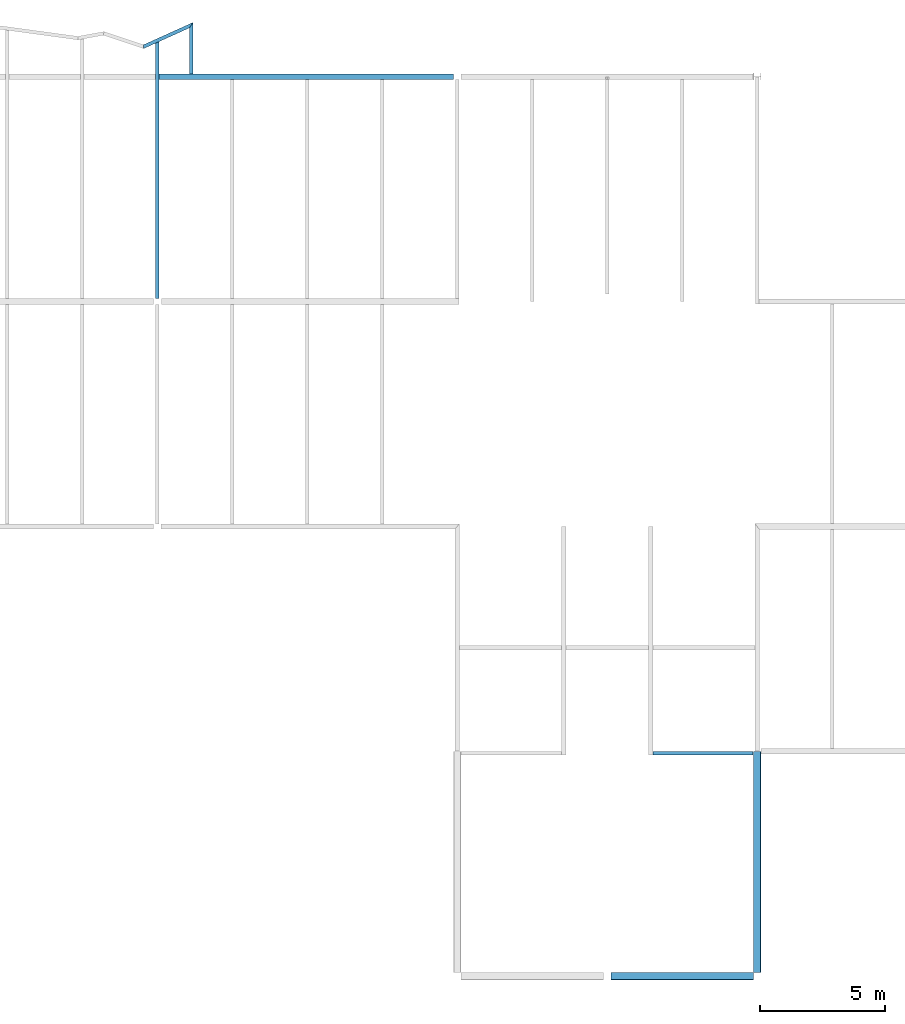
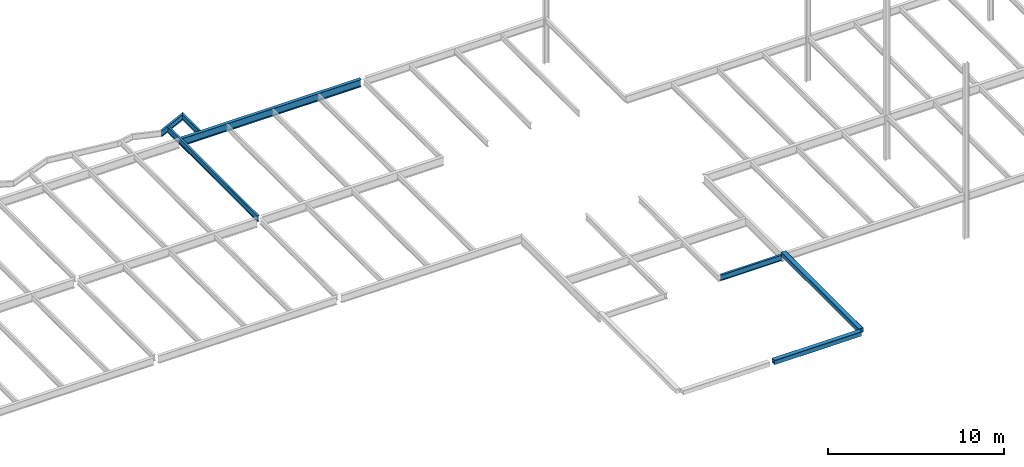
# One storey, part 14 of 26: 7 beams.
"""IFC2X3 building model written with IfcOpenShell, lengths in millimetres."""

from ifc_helpers import new_model, si_unit, origin, place, context, project, spatial, faceted_brep, material, element, save


model = new_model("IFC2X3")

# Units and contexts
context_of_model = context(None, 3, precision=1e-05, world=origin())
ifc_project = project(units=[si_unit("LENGTHUNIT", "METRE", prefix="MILLI")], contexts=[context_of_model])

# Building, storey
building = spatial("IfcBuilding", under=ifc_project, Name="Building", CompositionType="ELEMENT")
storey = spatial("IfcBuildingStorey", under=building, Name="FL4-FRM", CompositionType="ELEMENT")

# Beams
ifc_material_1 = material(Name="A992")
beam_1_placement = place(None, origin())
element("IfcBeam", 1, at=beam_1_placement, inside=storey, material=ifc_material_1, Name="Column357", context=context_of_model, shape_type="Brep", body=[
    faceted_brep([(-11930.0, 35895.5, 12845.0), (-11930.0, 36104.5, 12845.0), (-154.0, 36104.5, 12845.0), (-154.0, 35895.5, 12845.0), (-11930.0, 36104.5, 12858.3), (-154.0, 36104.5, 12858.3), (-11930.0, 36017.4, 12858.3), (-154.0, 36017.4, 12858.3), (-11930.0, 36014.2, 12858.7), (-154.0, 36014.2, 12858.7), (-11930.0, 36011.1, 12860.0), (-154.0, 36011.1, 12860.0), (-11930.0, 36008.5, 12862.0), (-154.0, 36008.5, 12862.0), (-11930.0, 36006.5, 12864.7), (-154.0, 36006.5, 12864.7), (-11930.0, 36005.2, 12867.7), (-154.0, 36005.2, 12867.7), (-11930.0, 36004.7, 12871.0), (-154.0, 36004.8, 12871.0), (-11930.0, 36004.7, 13347.0), (-154.0, 36004.8, 13347.0), (-11930.0, 36005.2, 13350.3), (-154.0, 36005.2, 13350.3), (-11930.0, 36006.5, 13353.3), (-154.0, 36006.5, 13353.3), (-11930.0, 36008.5, 13356.0), (-154.0, 36008.5, 13356.0), (-11930.0, 36011.1, 13358.0), (-154.0, 36011.1, 13358.0), (-11930.0, 36014.2, 13359.3), (-154.0, 36014.2, 13359.3), (-11930.0, 36017.4, 13359.7), (-154.0, 36017.4, 13359.7), (-11930.0, 36104.5, 13359.7), (-154.0, 36104.5, 13359.7), (-11930.0, 36104.5, 13373.0), (-154.0, 36104.5, 13373.0), (-11930.0, 35895.5, 13373.0), (-154.0, 35895.5, 13373.0), (-11930.0, 35895.5, 13359.7), (-154.0, 35895.5, 13359.7), (-11930.0, 35982.6, 13359.7), (-154.0, 35982.6, 13359.7), (-11930.0, 35985.8, 13359.3), (-154.0, 35985.8, 13359.3), (-11930.0, 35988.9, 13358.0), (-154.0, 35988.9, 13358.0), (-11930.0, 35991.5, 13356.0), (-154.0, 35991.5, 13356.0), (-11930.0, 35993.5, 13353.3), (-154.0, 35993.5, 13353.3), (-11930.0, 35994.8, 13350.3), (-154.0, 35994.8, 13350.3), (-11930.0, 35995.2, 13347.0), (-154.0, 35995.3, 13347.0), (-11930.0, 35995.2, 12871.0), (-154.0, 35995.3, 12871.0), (-11930.0, 35994.8, 12867.7), (-154.0, 35994.8, 12867.7), (-11930.0, 35993.5, 12864.7), (-154.0, 35993.5, 12864.7), (-11930.0, 35991.5, 12862.0), (-154.0, 35991.5, 12862.0), (-11930.0, 35988.9, 12860.0), (-154.0, 35988.9, 12860.0), (-11930.0, 35985.8, 12858.7), (-154.0, 35985.8, 12858.7), (-11930.0, 35982.6, 12858.3), (-154.0, 35982.6, 12858.3), (-11930.0, 35895.5, 12858.3), (-154.0, 35895.5, 12858.3)], [[[0, 1, 2, 3]], [[1, 4, 5, 2]], [[4, 6, 7, 5]], [[6, 8, 9, 7]], [[8, 10, 11, 9]], [[10, 12, 13, 11]], [[12, 14, 15, 13]], [[14, 16, 17, 15]], [[16, 18, 19, 17]], [[18, 20, 21, 19]], [[20, 22, 23, 21]], [[22, 24, 25, 23]], [[24, 26, 27, 25]], [[26, 28, 29, 27]], [[28, 30, 31, 29]], [[30, 32, 33, 31]], [[32, 34, 35, 33]], [[34, 36, 37, 35]], [[36, 38, 39, 37]], [[38, 40, 41, 39]], [[40, 42, 43, 41]], [[42, 44, 45, 43]], [[44, 46, 47, 45]], [[46, 48, 49, 47]], [[48, 50, 51, 49]], [[50, 52, 53, 51]], [[52, 54, 55, 53]], [[54, 56, 57, 55]], [[56, 58, 59, 57]], [[58, 60, 61, 59]], [[60, 62, 63, 61]], [[62, 64, 65, 63]], [[64, 66, 67, 65]], [[66, 68, 69, 67]], [[68, 70, 71, 69]], [[70, 0, 3, 71]], [[0, 70, 68, 66, 64, 62, 60, 58, 56, 54, 52, 50, 48, 46, 44, 42, 40, 38, 36, 34, 32, 30, 28, 26, 24, 22, 20, 18, 16, 14, 12, 10, 8, 6, 4, 1]], [[3, 2, 5, 7, 9, 11, 13, 15, 17, 19, 21, 23, 25, 27, 29, 31, 33, 35, 37, 39, 41, 43, 45, 47, 49, 51, 53, 55, 57, 59, 61, 63, 65, 67, 69, 71]]]),
])
ifc_material_2 = material(Name="A992")
beam_2_placement = place(None, origin())
element("IfcBeam", 2, at=beam_2_placement, inside=storey, material=ifc_material_2, Name="B979", context=context_of_model, shape_type="Brep", body=[
    faceted_brep([(-10720.0, 37949.8, 12974.0), (-10580.0, 38166.6, 12974.0), (-10580.0, 36104.5, 12974.0), (-10720.0, 36104.5, 12974.0), (-10580.0, 38166.6, 12982.8), (-10580.0, 36104.5, 12982.8), (-10636.6, 38079.0, 12982.8), (-10636.6, 36104.5, 12982.8), (-10638.0, 38076.8, 12982.9), (-10638.1, 36104.5, 12982.9), (-10639.5, 38074.6, 12983.2), (-10639.5, 36104.5, 12983.2), (-10640.8, 38072.4, 12983.7), (-10640.8, 36104.5, 12983.7), (-10642.1, 38070.5, 12984.4), (-10642.1, 36104.5, 12984.4), (-10643.2, 38068.7, 12985.2), (-10643.3, 36104.5, 12985.3), (-10644.3, 38067.1, 12986.3), (-10644.3, 36104.5, 12986.3), (-10645.1, 38065.8, 12987.4), (-10645.2, 36104.5, 12987.5), (-10645.9, 38064.6, 12988.7), (-10645.9, 36104.5, 12988.8), (-10646.3, 38063.9, 12990.1), (-10646.4, 36104.5, 12990.1), (-10646.6, 38063.4, 12991.5), (-10646.7, 36104.5, 12991.5), (-10646.8, 38063.2, 12993.0), (-10646.8, 36104.5, 12993.0), (-10646.8, 38063.2, 13354.0), (-10646.8, 36104.5, 13354.0), (-10646.6, 38063.4, 13355.5), (-10646.7, 36104.5, 13355.5), (-10646.3, 38063.9, 13356.9), (-10646.4, 36104.5, 13356.9), (-10645.9, 38064.6, 13358.3), (-10645.9, 36104.5, 13358.2), (-10645.1, 38065.8, 13359.6), (-10645.2, 36104.5, 13359.5), (-10644.3, 38067.1, 13360.7), (-10644.3, 36104.5, 13360.7), (-10643.2, 38068.7, 13361.8), (-10643.3, 36104.5, 13361.7), (-10642.1, 38070.5, 13362.6), (-10642.1, 36104.5, 13362.6), (-10640.8, 38072.4, 13363.3), (-10640.8, 36104.5, 13363.3), (-10639.5, 38074.6, 13363.8), (-10639.5, 36104.5, 13363.8), (-10638.0, 38076.8, 13364.1), (-10638.1, 36104.5, 13364.1), (-10636.6, 38079.0, 13364.2), (-10636.6, 36104.5, 13364.2), (-10580.0, 38166.6, 13364.2), (-10580.0, 36104.5, 13364.2), (-10580.0, 38166.6, 13373.0), (-10580.0, 36104.5, 13373.0), (-10720.0, 37949.8, 13373.0), (-10720.0, 36104.5, 13373.0), (-10720.0, 37949.8, 13364.2), (-10720.0, 36104.5, 13364.2), (-10663.4, 38037.5, 13364.2), (-10663.4, 36104.5, 13364.2), (-10662.0, 38039.7, 13364.1), (-10661.9, 36104.5, 13364.1), (-10660.5, 38041.9, 13363.8), (-10660.5, 36104.5, 13363.8), (-10659.2, 38044.0, 13363.3), (-10659.2, 36104.5, 13363.3), (-10657.9, 38045.9, 13362.6), (-10657.9, 36104.5, 13362.6), (-10656.8, 38047.8, 13361.8), (-10656.7, 36104.5, 13361.7), (-10655.7, 38049.3, 13360.7), (-10655.7, 36104.5, 13360.7), (-10654.9, 38050.7, 13359.6), (-10654.8, 36104.5, 13359.5), (-10654.1, 38051.8, 13358.3), (-10654.1, 36104.5, 13358.2), (-10653.7, 38052.5, 13356.9), (-10653.6, 36104.5, 13356.9), (-10653.4, 38053.0, 13355.5), (-10653.3, 36104.5, 13355.5), (-10653.2, 38053.3, 13354.0), (-10653.2, 36104.5, 13354.0), (-10653.2, 38053.3, 12993.0), (-10653.2, 36104.5, 12993.0), (-10653.4, 38053.0, 12991.5), (-10653.3, 36104.5, 12991.5), (-10653.7, 38052.5, 12990.1), (-10653.6, 36104.5, 12990.1), (-10654.1, 38051.8, 12988.7), (-10654.1, 36104.5, 12988.8), (-10654.9, 38050.7, 12987.4), (-10654.8, 36104.5, 12987.5), (-10655.7, 38049.3, 12986.3), (-10655.7, 36104.5, 12986.3), (-10656.8, 38047.8, 12985.2), (-10656.7, 36104.5, 12985.3), (-10657.9, 38045.9, 12984.4), (-10657.9, 36104.5, 12984.4), (-10659.2, 38044.0, 12983.7), (-10659.2, 36104.5, 12983.7), (-10660.5, 38041.9, 12983.2), (-10660.5, 36104.5, 12983.2), (-10662.0, 38039.7, 12982.9), (-10661.9, 36104.5, 12982.9), (-10663.4, 38037.5, 12982.8), (-10663.4, 36104.5, 12982.8), (-10720.0, 37949.8, 12982.8), (-10720.0, 36104.5, 12982.8)], [[[0, 1, 2, 3]], [[1, 4, 5, 2]], [[4, 6, 7, 5]], [[6, 8, 9, 7]], [[8, 10, 11, 9]], [[10, 12, 13, 11]], [[12, 14, 15, 13]], [[14, 16, 17, 15]], [[16, 18, 19, 17]], [[18, 20, 21, 19]], [[20, 22, 23, 21]], [[22, 24, 25, 23]], [[24, 26, 27, 25]], [[26, 28, 29, 27]], [[28, 30, 31, 29]], [[30, 32, 33, 31]], [[32, 34, 35, 33]], [[34, 36, 37, 35]], [[36, 38, 39, 37]], [[38, 40, 41, 39]], [[40, 42, 43, 41]], [[42, 44, 45, 43]], [[44, 46, 47, 45]], [[46, 48, 49, 47]], [[48, 50, 51, 49]], [[50, 52, 53, 51]], [[52, 54, 55, 53]], [[54, 56, 57, 55]], [[56, 58, 59, 57]], [[58, 60, 61, 59]], [[60, 62, 63, 61]], [[62, 64, 65, 63]], [[64, 66, 67, 65]], [[66, 68, 69, 67]], [[68, 70, 71, 69]], [[70, 72, 73, 71]], [[72, 74, 75, 73]], [[74, 76, 77, 75]], [[76, 78, 79, 77]], [[78, 80, 81, 79]], [[80, 82, 83, 81]], [[82, 84, 85, 83]], [[84, 86, 87, 85]], [[86, 88, 89, 87]], [[88, 90, 91, 89]], [[90, 92, 93, 91]], [[92, 94, 95, 93]], [[94, 96, 97, 95]], [[96, 98, 99, 97]], [[98, 100, 101, 99]], [[100, 102, 103, 101]], [[102, 104, 105, 103]], [[104, 106, 107, 105]], [[106, 108, 109, 107]], [[108, 110, 111, 109]], [[110, 0, 3, 111]], [[0, 110, 108, 106, 104, 102, 100, 98, 96, 94, 92, 90, 88, 86, 84, 82, 80, 78, 76, 74, 72, 70, 68, 66, 64, 62, 60, 58, 56, 54, 52, 50, 48, 46, 44, 42, 40, 38, 36, 34, 32, 30, 28, 26, 24, 22, 20, 18, 16, 14, 12, 10, 8, 6, 4, 1]], [[3, 2, 5, 7, 9, 11, 13, 15, 17, 19, 21, 23, 25, 27, 29, 31, 33, 35, 37, 39, 41, 43, 45, 47, 49, 51, 53, 55, 57, 59, 61, 63, 65, 67, 69, 71, 73, 75, 77, 79, 81, 83, 85, 87, 89, 91, 93, 95, 97, 99, 101, 103, 105, 107, 109, 111]]]),
])
ifc_material_3 = material(Name="A992")
beam_3_placement = place(None, origin())
element("IfcBeam", 3, at=beam_3_placement, inside=storey, material=ifc_material_3, Name="B980", context=context_of_model, shape_type="Brep", body=[
    faceted_brep([(-12548.9, 37124.0, 12974.0), (-12556.6, 37274.1, 12974.0), (-10580.0, 38166.6, 12974.0), (-10720.0, 37949.8, 12974.0), (-12556.6, 37274.1, 12982.8), (-10580.0, 38166.6, 12982.8), (-12553.5, 37213.4, 12982.8), (-10636.6, 38079.0, 12982.8), (-12553.4, 37211.7, 12982.9), (-10638.2, 38076.5, 12982.9), (-12553.3, 37210.1, 12983.3), (-10639.7, 38074.1, 12983.3), (-12553.2, 37208.5, 12983.9), (-10641.2, 38071.9, 12983.9), (-12553.1, 37207.0, 12984.7), (-10642.5, 38069.8, 12984.7), (-12553.1, 37205.7, 12985.8), (-10643.8, 38067.8, 12985.8), (-12553.0, 37204.6, 12987.0), (-10644.8, 38066.3, 12986.9), (-12553.0, 37203.7, 12988.4), (-10645.7, 38064.9, 12988.3), (-12552.9, 37203.0, 12989.8), (-10646.3, 38064.0, 12989.8), (-12552.9, 37202.7, 12991.4), (-10646.6, 38063.5, 12991.4), (-12552.9, 37202.5, 12993.0), (-10646.8, 38063.2, 12993.0), (-12552.9, 37202.5, 13354.0), (-10646.8, 38063.2, 13354.0), (-12552.9, 37202.7, 13355.6), (-10646.6, 38063.5, 13355.6), (-12552.9, 37203.0, 13357.2), (-10646.3, 38064.0, 13357.2), (-12553.0, 37203.7, 13358.6), (-10645.7, 38064.9, 13358.7), (-12553.0, 37204.6, 13360.0), (-10644.8, 38066.3, 13360.1), (-12553.1, 37205.7, 13361.2), (-10643.8, 38067.8, 13361.2), (-12553.1, 37207.0, 13362.3), (-10642.5, 38069.8, 13362.3), (-12553.2, 37208.5, 13363.1), (-10641.2, 38071.9, 13363.1), (-12553.3, 37210.1, 13363.7), (-10639.7, 38074.1, 13363.7), (-12553.4, 37211.7, 13364.1), (-10638.2, 38076.5, 13364.1), (-12553.5, 37213.4, 13364.2), (-10636.6, 38079.0, 13364.2), (-12556.6, 37274.1, 13364.2), (-10580.0, 38166.6, 13364.2), (-12556.6, 37274.1, 13373.0), (-10580.0, 38166.6, 13373.0), (-12548.9, 37124.0, 13373.0), (-10720.0, 37949.8, 13373.0), (-12548.9, 37124.0, 13364.2), (-10720.0, 37949.8, 13364.2), (-12552.0, 37184.7, 13364.2), (-10663.4, 38037.5, 13364.2), (-12552.1, 37186.4, 13364.1), (-10661.8, 38039.9, 13364.1), (-12552.2, 37188.1, 13363.7), (-10660.3, 38042.3, 13363.7), (-12552.2, 37189.7, 13363.1), (-10658.8, 38044.6, 13363.1), (-12552.3, 37191.1, 13362.3), (-10657.5, 38046.7, 13362.3), (-12552.4, 37192.4, 13361.2), (-10656.2, 38048.6, 13361.2), (-12552.4, 37193.5, 13360.0), (-10655.2, 38050.2, 13360.1), (-12552.5, 37194.5, 13358.6), (-10654.3, 38051.5, 13358.7), (-12552.5, 37195.1, 13357.2), (-10653.7, 38052.4, 13357.2), (-12552.5, 37195.5, 13355.6), (-10653.4, 38053.0, 13355.6), (-12552.5, 37195.6, 13354.0), (-10653.2, 38053.3, 13354.0), (-12552.5, 37195.6, 12993.0), (-10653.2, 38053.3, 12993.0), (-12552.5, 37195.5, 12991.4), (-10653.4, 38053.0, 12991.4), (-12552.5, 37195.1, 12989.8), (-10653.7, 38052.4, 12989.8), (-12552.5, 37194.5, 12988.4), (-10654.3, 38051.5, 12988.3), (-12552.4, 37193.5, 12987.0), (-10655.2, 38050.2, 12986.9), (-12552.4, 37192.4, 12985.8), (-10656.2, 38048.6, 12985.8), (-12552.3, 37191.1, 12984.7), (-10657.5, 38046.7, 12984.7), (-12552.2, 37189.7, 12983.9), (-10658.8, 38044.6, 12983.9), (-12552.2, 37188.1, 12983.3), (-10660.3, 38042.3, 12983.3), (-12552.1, 37186.4, 12982.9), (-10661.8, 38039.9, 12982.9), (-12552.0, 37184.7, 12982.8), (-10663.4, 38037.5, 12982.8), (-12548.9, 37124.0, 12982.8), (-10720.0, 37949.8, 12982.8)], [[[0, 1, 2, 3]], [[1, 4, 5, 2]], [[4, 6, 7, 5]], [[6, 8, 9, 7]], [[8, 10, 11, 9]], [[10, 12, 13, 11]], [[12, 14, 15, 13]], [[14, 16, 17, 15]], [[16, 18, 19, 17]], [[18, 20, 21, 19]], [[20, 22, 23, 21]], [[22, 24, 25, 23]], [[24, 26, 27, 25]], [[26, 28, 29, 27]], [[28, 30, 31, 29]], [[30, 32, 33, 31]], [[32, 34, 35, 33]], [[34, 36, 37, 35]], [[36, 38, 39, 37]], [[38, 40, 41, 39]], [[40, 42, 43, 41]], [[42, 44, 45, 43]], [[44, 46, 47, 45]], [[46, 48, 49, 47]], [[48, 50, 51, 49]], [[50, 52, 53, 51]], [[52, 54, 55, 53]], [[54, 56, 57, 55]], [[56, 58, 59, 57]], [[58, 60, 61, 59]], [[60, 62, 63, 61]], [[62, 64, 65, 63]], [[64, 66, 67, 65]], [[66, 68, 69, 67]], [[68, 70, 71, 69]], [[70, 72, 73, 71]], [[72, 74, 75, 73]], [[74, 76, 77, 75]], [[76, 78, 79, 77]], [[78, 80, 81, 79]], [[80, 82, 83, 81]], [[82, 84, 85, 83]], [[84, 86, 87, 85]], [[86, 88, 89, 87]], [[88, 90, 91, 89]], [[90, 92, 93, 91]], [[92, 94, 95, 93]], [[94, 96, 97, 95]], [[96, 98, 99, 97]], [[98, 100, 101, 99]], [[100, 102, 103, 101]], [[102, 0, 3, 103]], [[0, 102, 100, 98, 96, 94, 92, 90, 88, 86, 84, 82, 80, 78, 76, 74, 72, 70, 68, 66, 64, 62, 60, 58, 56, 54, 52, 50, 48, 46, 44, 42, 40, 38, 36, 34, 32, 30, 28, 26, 24, 22, 20, 18, 16, 14, 12, 10, 8, 6, 4, 1]], [[3, 2, 5, 7, 9, 11, 13, 15, 17, 19, 21, 23, 25, 27, 29, 31, 33, 35, 37, 39, 41, 43, 45, 47, 49, 51, 53, 55, 57, 59, 61, 63, 65, 67, 69, 71, 73, 75, 77, 79, 81, 83, 85, 87, 89, 91, 93, 95, 97, 99, 101, 103]]]),
])
ifc_material_4 = material(Name="A992")
beam_4_placement = place(None, origin())
element("IfcBeam", 4, at=beam_4_placement, inside=storey, material=ifc_material_4, Name="B981", context=context_of_model, shape_type="Brep", body=[
    faceted_brep([(-12070.0, 37340.2, 12974.0), (-11930.0, 37403.5, 12974.0), (-11930.0, 27114.5, 12974.0), (-12070.0, 27114.5, 12974.0), (-11930.0, 37403.5, 12982.8), (-11930.0, 27114.5, 12982.8), (-11986.6, 37377.9, 12982.8), (-11986.6, 27114.5, 12982.8), (-11988.0, 37377.2, 12982.9), (-11988.1, 27114.5, 12982.9), (-11989.5, 37376.6, 12983.2), (-11989.5, 27114.5, 12983.2), (-11990.8, 37376.0, 12983.7), (-11990.8, 27114.5, 12983.7), (-11992.1, 37375.4, 12984.4), (-11992.1, 27114.5, 12984.4), (-11993.3, 37374.9, 12985.3), (-11993.3, 27114.5, 12985.3), (-11994.3, 37374.4, 12986.3), (-11994.3, 27114.5, 12986.3), (-11995.2, 37374.0, 12987.5), (-11995.2, 27114.5, 12987.5), (-11995.9, 37373.7, 12988.8), (-11995.9, 27114.5, 12988.8), (-11996.4, 37373.5, 12990.1), (-11996.4, 27114.5, 12990.1), (-11996.7, 37373.3, 12991.5), (-11996.7, 27114.5, 12991.5), (-11996.8, 37373.3, 12993.0), (-11996.8, 27114.5, 12993.0), (-11996.8, 37373.3, 13354.0), (-11996.8, 27114.5, 13354.0), (-11996.7, 37373.3, 13355.5), (-11996.7, 27114.5, 13355.5), (-11996.4, 37373.5, 13356.9), (-11996.4, 27114.5, 13356.9), (-11995.9, 37373.7, 13358.2), (-11995.9, 27114.5, 13358.2), (-11995.2, 37374.0, 13359.5), (-11995.2, 27114.5, 13359.5), (-11994.3, 37374.4, 13360.7), (-11994.3, 27114.5, 13360.7), (-11993.3, 37374.9, 13361.7), (-11993.3, 27114.5, 13361.7), (-11992.1, 37375.4, 13362.6), (-11992.1, 27114.5, 13362.6), (-11990.8, 37376.0, 13363.3), (-11990.8, 27114.5, 13363.3), (-11989.5, 37376.6, 13363.8), (-11989.5, 27114.5, 13363.8), (-11988.0, 37377.2, 13364.1), (-11988.1, 27114.5, 13364.1), (-11986.6, 37377.9, 13364.2), (-11986.6, 27114.5, 13364.2), (-11930.0, 37403.5, 13364.2), (-11930.0, 27114.5, 13364.2), (-11930.0, 37403.5, 13373.0), (-11930.0, 27114.5, 13373.0), (-12070.0, 37340.2, 13373.0), (-12070.0, 27114.5, 13373.0), (-12070.0, 37340.2, 13364.2), (-12070.0, 27114.5, 13364.2), (-12013.4, 37365.8, 13364.2), (-12013.4, 27114.5, 13364.2), (-12012.0, 37366.4, 13364.1), (-12011.9, 27114.5, 13364.1), (-12010.5, 37367.1, 13363.8), (-12010.5, 27114.5, 13363.8), (-12009.2, 37367.7, 13363.3), (-12009.2, 27114.5, 13363.3), (-12007.9, 37368.3, 13362.6), (-12007.9, 27114.5, 13362.6), (-12006.7, 37368.8, 13361.7), (-12006.7, 27114.5, 13361.7), (-12005.7, 37369.3, 13360.7), (-12005.7, 27114.5, 13360.7), (-12004.8, 37369.7, 13359.5), (-12004.8, 27114.5, 13359.5), (-12004.1, 37370.0, 13358.2), (-12004.1, 27114.5, 13358.2), (-12003.6, 37370.2, 13356.9), (-12003.6, 27114.5, 13356.9), (-12003.3, 37370.3, 13355.5), (-12003.3, 27114.5, 13355.5), (-12003.2, 37370.4, 13354.0), (-12003.2, 27114.5, 13354.0), (-12003.2, 37370.4, 12993.0), (-12003.2, 27114.5, 12993.0), (-12003.3, 37370.3, 12991.5), (-12003.3, 27114.5, 12991.5), (-12003.6, 37370.2, 12990.1), (-12003.6, 27114.5, 12990.1), (-12004.1, 37370.0, 12988.8), (-12004.1, 27114.5, 12988.8), (-12004.8, 37369.7, 12987.5), (-12004.8, 27114.5, 12987.5), (-12005.7, 37369.3, 12986.3), (-12005.7, 27114.5, 12986.3), (-12006.7, 37368.8, 12985.3), (-12006.7, 27114.5, 12985.3), (-12007.9, 37368.3, 12984.4), (-12007.9, 27114.5, 12984.4), (-12009.2, 37367.7, 12983.7), (-12009.2, 27114.5, 12983.7), (-12010.5, 37367.1, 12983.2), (-12010.5, 27114.5, 12983.2), (-12012.0, 37366.4, 12982.9), (-12011.9, 27114.5, 12982.9), (-12013.4, 37365.8, 12982.8), (-12013.4, 27114.5, 12982.8), (-12070.0, 37340.2, 12982.8), (-12070.0, 27114.5, 12982.8)], [[[0, 1, 2, 3]], [[1, 4, 5, 2]], [[4, 6, 7, 5]], [[6, 8, 9, 7]], [[8, 10, 11, 9]], [[10, 12, 13, 11]], [[12, 14, 15, 13]], [[14, 16, 17, 15]], [[16, 18, 19, 17]], [[18, 20, 21, 19]], [[20, 22, 23, 21]], [[22, 24, 25, 23]], [[24, 26, 27, 25]], [[26, 28, 29, 27]], [[28, 30, 31, 29]], [[30, 32, 33, 31]], [[32, 34, 35, 33]], [[34, 36, 37, 35]], [[36, 38, 39, 37]], [[38, 40, 41, 39]], [[40, 42, 43, 41]], [[42, 44, 45, 43]], [[44, 46, 47, 45]], [[46, 48, 49, 47]], [[48, 50, 51, 49]], [[50, 52, 53, 51]], [[52, 54, 55, 53]], [[54, 56, 57, 55]], [[56, 58, 59, 57]], [[58, 60, 61, 59]], [[60, 62, 63, 61]], [[62, 64, 65, 63]], [[64, 66, 67, 65]], [[66, 68, 69, 67]], [[68, 70, 71, 69]], [[70, 72, 73, 71]], [[72, 74, 75, 73]], [[74, 76, 77, 75]], [[76, 78, 79, 77]], [[78, 80, 81, 79]], [[80, 82, 83, 81]], [[82, 84, 85, 83]], [[84, 86, 87, 85]], [[86, 88, 89, 87]], [[88, 90, 91, 89]], [[90, 92, 93, 91]], [[92, 94, 95, 93]], [[94, 96, 97, 95]], [[96, 98, 99, 97]], [[98, 100, 101, 99]], [[100, 102, 103, 101]], [[102, 104, 105, 103]], [[104, 106, 107, 105]], [[106, 108, 109, 107]], [[108, 110, 111, 109]], [[110, 0, 3, 111]], [[0, 110, 108, 106, 104, 102, 100, 98, 96, 94, 92, 90, 88, 86, 84, 82, 80, 78, 76, 74, 72, 70, 68, 66, 64, 62, 60, 58, 56, 54, 52, 50, 48, 46, 44, 42, 40, 38, 36, 34, 32, 30, 28, 26, 24, 22, 20, 18, 16, 14, 12, 10, 8, 6, 4, 1]], [[3, 2, 5, 7, 9, 11, 13, 15, 17, 19, 21, 23, 25, 27, 29, 31, 33, 35, 37, 39, 41, 43, 45, 47, 49, 51, 53, 55, 57, 59, 61, 63, 65, 67, 69, 71, 73, 75, 77, 79, 81, 83, 85, 87, 89, 91, 93, 95, 97, 99, 101, 103, 105, 107, 109, 111]]]),
])
ifc_material_5 = material(Name="A500 grade B")
beam_5_placement = place(None, origin())
element("IfcBeam", 5, at=beam_5_placement, inside=storey, material=ifc_material_5, Name="B1229", context=context_of_model, shape_type="Brep", body=[
    faceted_brep([(6152.5, -1.94289e-12, 13195.0), (6152.5, 133.5, 13195.0), (11847.5, 133.5, 13195.0), (11847.5, -1.94289e-12, 13195.0), (6152.5, 138.418, 13195.6), (11847.5, 138.418, 13195.6), (6152.5, 143.0, 13197.5), (11847.5, 143.0, 13197.5), (6152.5, 146.935, 13200.6), (11847.5, 146.935, 13200.6), (6152.5, 149.954, 13204.5), (11847.5, 149.954, 13204.5), (6152.5, 151.853, 13209.1), (11847.5, 151.853, 13209.1), (6152.5, 152.5, 13214.0), (11847.5, 152.5, 13214.0), (6152.5, 152.5, 13481.0), (11847.5, 152.5, 13481.0), (6152.5, 151.853, 13485.9), (11847.5, 151.853, 13485.9), (6152.5, 149.954, 13490.5), (11847.5, 149.954, 13490.5), (6152.5, 146.935, 13494.4), (11847.5, 146.935, 13494.4), (6152.5, 143.0, 13497.5), (11847.5, 143.0, 13497.5), (6152.5, 138.418, 13499.4), (11847.5, 138.418, 13499.4), (6152.5, 133.5, 13500.0), (11847.5, 133.5, 13500.0), (6152.5, -133.5, 13500.0), (11847.5, -133.5, 13500.0), (6152.5, -138.418, 13499.4), (11847.5, -138.418, 13499.4), (6152.5, -143.0, 13497.5), (11847.5, -143.0, 13497.5), (6152.5, -146.935, 13494.4), (11847.5, -146.935, 13494.4), (6152.5, -149.954, 13490.5), (11847.5, -149.954, 13490.5), (6152.5, -151.853, 13485.9), (11847.5, -151.853, 13485.9), (6152.5, -152.5, 13481.0), (11847.5, -152.5, 13481.0), (6152.5, -152.5, 13214.0), (11847.5, -152.5, 13214.0), (6152.5, -151.853, 13209.1), (11847.5, -151.853, 13209.1), (6152.5, -149.954, 13204.5), (11847.5, -149.954, 13204.5), (6152.5, -146.935, 13200.6), (11847.5, -146.935, 13200.6), (6152.5, -143.0, 13197.5), (11847.5, -143.0, 13197.5), (6152.5, -138.418, 13195.6), (11847.5, -138.418, 13195.6), (6152.5, -133.5, 13195.0), (11847.5, -133.5, 13195.0), (6152.5, -1.94289e-12, 13204.5), (6152.5, -133.5, 13204.5), (11847.5, -133.5, 13204.5), (11847.5, -1.94289e-12, 13204.5), (6152.5, -135.959, 13204.8), (11847.5, -135.959, 13204.8), (6152.5, -138.25, 13205.8), (11847.5, -138.25, 13205.8), (6152.5, -140.218, 13207.3), (11847.5, -140.218, 13207.3), (6152.5, -141.727, 13209.2), (11847.5, -141.727, 13209.2), (6152.5, -142.676, 13211.5), (11847.5, -142.676, 13211.5), (6152.5, -143.0, 13214.0), (11847.5, -143.0, 13214.0), (6152.5, -143.0, 13481.0), (11847.5, -143.0, 13481.0), (6152.5, -142.676, 13483.5), (11847.5, -142.676, 13483.5), (6152.5, -141.727, 13485.8), (11847.5, -141.727, 13485.8), (6152.5, -140.218, 13487.7), (11847.5, -140.218, 13487.7), (6152.5, -138.25, 13489.2), (11847.5, -138.25, 13489.2), (6152.5, -135.959, 13490.2), (11847.5, -135.959, 13490.2), (6152.5, -133.5, 13490.5), (11847.5, -133.5, 13490.5), (6152.5, 133.5, 13490.5), (11847.5, 133.5, 13490.5), (6152.5, 135.959, 13490.2), (11847.5, 135.959, 13490.2), (6152.5, 138.25, 13489.2), (11847.5, 138.25, 13489.2), (6152.5, 140.218, 13487.7), (11847.5, 140.218, 13487.7), (6152.5, 141.727, 13485.8), (11847.5, 141.727, 13485.8), (6152.5, 142.676, 13483.5), (11847.5, 142.676, 13483.5), (6152.5, 143.0, 13481.0), (11847.5, 143.0, 13481.0), (6152.5, 143.0, 13214.0), (11847.5, 143.0, 13214.0), (6152.5, 142.676, 13211.5), (11847.5, 142.676, 13211.5), (6152.5, 141.727, 13209.2), (11847.5, 141.727, 13209.2), (6152.5, 140.218, 13207.3), (11847.5, 140.218, 13207.3), (6152.5, 138.25, 13205.8), (11847.5, 138.25, 13205.8), (6152.5, 135.959, 13204.8), (11847.5, 135.959, 13204.8), (6152.5, 133.5, 13204.5), (11847.5, 133.5, 13204.5)], [[[0, 1, 2, 3]], [[1, 4, 5, 2]], [[4, 6, 7, 5]], [[6, 8, 9, 7]], [[8, 10, 11, 9]], [[10, 12, 13, 11]], [[12, 14, 15, 13]], [[14, 16, 17, 15]], [[16, 18, 19, 17]], [[18, 20, 21, 19]], [[20, 22, 23, 21]], [[22, 24, 25, 23]], [[24, 26, 27, 25]], [[26, 28, 29, 27]], [[28, 30, 31, 29]], [[30, 32, 33, 31]], [[32, 34, 35, 33]], [[34, 36, 37, 35]], [[36, 38, 39, 37]], [[38, 40, 41, 39]], [[40, 42, 43, 41]], [[42, 44, 45, 43]], [[44, 46, 47, 45]], [[46, 48, 49, 47]], [[48, 50, 51, 49]], [[50, 52, 53, 51]], [[52, 54, 55, 53]], [[54, 56, 57, 55]], [[56, 0, 3, 57]], [[58, 59, 60, 61]], [[59, 62, 63, 60]], [[62, 64, 65, 63]], [[64, 66, 67, 65]], [[66, 68, 69, 67]], [[68, 70, 71, 69]], [[70, 72, 73, 71]], [[72, 74, 75, 73]], [[74, 76, 77, 75]], [[76, 78, 79, 77]], [[78, 80, 81, 79]], [[80, 82, 83, 81]], [[82, 84, 85, 83]], [[84, 86, 87, 85]], [[86, 88, 89, 87]], [[88, 90, 91, 89]], [[90, 92, 93, 91]], [[92, 94, 95, 93]], [[94, 96, 97, 95]], [[96, 98, 99, 97]], [[98, 100, 101, 99]], [[100, 102, 103, 101]], [[102, 104, 105, 103]], [[104, 106, 107, 105]], [[106, 108, 109, 107]], [[108, 110, 111, 109]], [[110, 112, 113, 111]], [[112, 114, 115, 113]], [[114, 58, 61, 115]], [[0, 56, 54, 52, 50, 48, 46, 44, 42, 40, 38, 36, 34, 32, 30, 28, 26, 24, 22, 20, 18, 16, 14, 12, 10, 8, 6, 4, 1], [58, 114, 112, 110, 108, 106, 104, 102, 100, 98, 96, 94, 92, 90, 88, 86, 84, 82, 80, 78, 76, 74, 72, 70, 68, 66, 64, 62, 59]], [[3, 2, 5, 7, 9, 11, 13, 15, 17, 19, 21, 23, 25, 27, 29, 31, 33, 35, 37, 39, 41, 43, 45, 47, 49, 51, 53, 55, 57], [61, 60, 63, 65, 67, 69, 71, 73, 75, 77, 79, 81, 83, 85, 87, 89, 91, 93, 95, 97, 99, 101, 103, 105, 107, 109, 111, 113, 115]]]),
])
ifc_material_6 = material(Name="A500 grade B")
beam_6_placement = place(None, origin())
element("IfcBeam", 6, at=beam_6_placement, inside=storey, material=ifc_material_6, Name="B1230", context=context_of_model, shape_type="Brep", body=[
    faceted_brep([(12000.0, 152.5, 13195.0), (11866.5, 152.5, 13195.0), (11866.5, 8991.0, 13195.0), (12000.0, 8991.0, 13195.0), (11861.6, 152.5, 13195.6), (11861.6, 8991.0, 13195.6), (11857.0, 152.5, 13197.5), (11857.0, 8991.0, 13197.5), (11853.1, 152.5, 13200.6), (11853.1, 8991.0, 13200.6), (11850.0, 152.5, 13204.5), (11850.0, 8991.0, 13204.5), (11848.1, 152.5, 13209.1), (11848.1, 8991.0, 13209.1), (11847.5, 152.5, 13214.0), (11847.5, 8991.0, 13214.0), (11847.5, 152.5, 13481.0), (11847.5, 8991.0, 13481.0), (11848.1, 152.5, 13485.9), (11848.1, 8991.0, 13485.9), (11850.0, 152.5, 13490.5), (11850.0, 8991.0, 13490.5), (11853.1, 152.5, 13494.4), (11853.1, 8991.0, 13494.4), (11857.0, 152.5, 13497.5), (11857.0, 8991.0, 13497.5), (11861.6, 152.5, 13499.4), (11861.6, 8991.0, 13499.4), (11866.5, 152.5, 13500.0), (11866.5, 8991.0, 13500.0), (12133.5, 152.5, 13500.0), (12133.5, 8991.0, 13500.0), (12138.4, 152.5, 13499.4), (12138.4, 8991.0, 13499.4), (12143.0, 152.5, 13497.5), (12143.0, 8991.0, 13497.5), (12146.9, 152.5, 13494.4), (12146.9, 8991.0, 13494.4), (12150.0, 152.5, 13490.5), (12150.0, 8991.0, 13490.5), (12151.9, 152.5, 13485.9), (12151.9, 8991.0, 13485.9), (12152.5, 152.5, 13481.0), (12152.5, 8991.0, 13481.0), (12152.5, 152.5, 13214.0), (12152.5, 8991.0, 13214.0), (12151.9, 152.5, 13209.1), (12151.9, 8991.0, 13209.1), (12150.0, 152.5, 13204.5), (12150.0, 8991.0, 13204.5), (12146.9, 152.5, 13200.6), (12146.9, 8991.0, 13200.6), (12143.0, 152.5, 13197.5), (12143.0, 8991.0, 13197.5), (12138.4, 152.5, 13195.6), (12138.4, 8991.0, 13195.6), (12133.5, 152.5, 13195.0), (12133.5, 8991.0, 13195.0), (12000.0, 152.5, 13204.5), (12133.5, 152.5, 13204.5), (12133.5, 8991.0, 13204.5), (12000.0, 8991.0, 13204.5), (12136.0, 152.5, 13204.8), (12136.0, 8991.0, 13204.8), (12138.3, 152.5, 13205.8), (12138.3, 8991.0, 13205.8), (12140.2, 152.5, 13207.3), (12140.2, 8991.0, 13207.3), (12141.7, 152.5, 13209.3), (12141.7, 8991.0, 13209.3), (12142.7, 152.5, 13211.5), (12142.7, 8991.0, 13211.5), (12143.0, 152.5, 13214.0), (12143.0, 8991.0, 13214.0), (12143.0, 152.5, 13481.0), (12143.0, 8991.0, 13481.0), (12142.7, 152.5, 13483.5), (12142.7, 8991.0, 13483.5), (12141.7, 152.5, 13485.8), (12141.7, 8991.0, 13485.8), (12140.2, 152.5, 13487.7), (12140.2, 8991.0, 13487.7), (12138.3, 152.5, 13489.2), (12138.3, 8991.0, 13489.2), (12136.0, 152.5, 13490.2), (12136.0, 8991.0, 13490.2), (12133.5, 152.5, 13490.5), (12133.5, 8991.0, 13490.5), (11866.5, 152.5, 13490.5), (11866.5, 8991.0, 13490.5), (11864.0, 152.5, 13490.2), (11864.0, 8991.0, 13490.2), (11861.8, 152.5, 13489.2), (11861.8, 8991.0, 13489.2), (11859.8, 152.5, 13487.7), (11859.8, 8991.0, 13487.7), (11858.3, 152.5, 13485.8), (11858.3, 8991.0, 13485.8), (11857.3, 152.5, 13483.5), (11857.3, 8991.0, 13483.5), (11857.0, 152.5, 13481.0), (11857.0, 8991.0, 13481.0), (11857.0, 152.5, 13214.0), (11857.0, 8991.0, 13214.0), (11857.3, 152.5, 13211.5), (11857.3, 8991.0, 13211.5), (11858.3, 152.5, 13209.3), (11858.3, 8991.0, 13209.2), (11859.8, 152.5, 13207.3), (11859.8, 8991.0, 13207.3), (11861.8, 152.5, 13205.8), (11861.8, 8991.0, 13205.8), (11864.0, 152.5, 13204.8), (11864.0, 8991.0, 13204.8), (11866.5, 152.5, 13204.5), (11866.5, 8991.0, 13204.5)], [[[0, 1, 2, 3]], [[1, 4, 5, 2]], [[4, 6, 7, 5]], [[6, 8, 9, 7]], [[8, 10, 11, 9]], [[10, 12, 13, 11]], [[12, 14, 15, 13]], [[14, 16, 17, 15]], [[16, 18, 19, 17]], [[18, 20, 21, 19]], [[20, 22, 23, 21]], [[22, 24, 25, 23]], [[24, 26, 27, 25]], [[26, 28, 29, 27]], [[28, 30, 31, 29]], [[30, 32, 33, 31]], [[32, 34, 35, 33]], [[34, 36, 37, 35]], [[36, 38, 39, 37]], [[38, 40, 41, 39]], [[40, 42, 43, 41]], [[42, 44, 45, 43]], [[44, 46, 47, 45]], [[46, 48, 49, 47]], [[48, 50, 51, 49]], [[50, 52, 53, 51]], [[52, 54, 55, 53]], [[54, 56, 57, 55]], [[56, 0, 3, 57]], [[58, 59, 60, 61]], [[59, 62, 63, 60]], [[62, 64, 65, 63]], [[64, 66, 67, 65]], [[66, 68, 69, 67]], [[68, 70, 71, 69]], [[70, 72, 73, 71]], [[72, 74, 75, 73]], [[74, 76, 77, 75]], [[76, 78, 79, 77]], [[78, 80, 81, 79]], [[80, 82, 83, 81]], [[82, 84, 85, 83]], [[84, 86, 87, 85]], [[86, 88, 89, 87]], [[88, 90, 91, 89]], [[90, 92, 93, 91]], [[92, 94, 95, 93]], [[94, 96, 97, 95]], [[96, 98, 99, 97]], [[98, 100, 101, 99]], [[100, 102, 103, 101]], [[102, 104, 105, 103]], [[104, 106, 107, 105]], [[106, 108, 109, 107]], [[108, 110, 111, 109]], [[110, 112, 113, 111]], [[112, 114, 115, 113]], [[114, 58, 61, 115]], [[0, 56, 54, 52, 50, 48, 46, 44, 42, 40, 38, 36, 34, 32, 30, 28, 26, 24, 22, 20, 18, 16, 14, 12, 10, 8, 6, 4, 1], [58, 114, 112, 110, 108, 106, 104, 102, 100, 98, 96, 94, 92, 90, 88, 86, 84, 82, 80, 78, 76, 74, 72, 70, 68, 66, 64, 62, 59]], [[3, 2, 5, 7, 9, 11, 13, 15, 17, 19, 21, 23, 25, 27, 29, 31, 33, 35, 37, 39, 41, 43, 45, 47, 49, 51, 53, 55, 57], [61, 60, 63, 65, 67, 69, 71, 73, 75, 77, 79, 81, 83, 85, 87, 89, 91, 93, 95, 97, 99, 101, 103, 105, 107, 109, 111, 113, 115]]]),
])
ifc_material_7 = material(Name="A992")
beam_7_placement = place(None, origin())
element("IfcBeam", 7, at=beam_7_placement, inside=storey, material=ifc_material_7, Name="B1241", context=context_of_model, shape_type="Brep", body=[
    faceted_brep([(11833.5, 9000.0, 12974.0), (11833.5, 8860.0, 12974.0), (7826.8, 8860.0, 12974.0), (7826.8, 9000.0, 12974.0), (11833.5, 8860.0, 12982.8), (7826.8, 8860.0, 12982.8), (11833.5, 8916.6, 12982.8), (7826.8, 8916.6, 12982.8), (11833.5, 8919.24, 12983.1), (7826.8, 8919.24, 12983.1), (11833.5, 8921.7, 12984.2), (7826.8, 8921.7, 12984.2), (11833.5, 8923.81, 12985.8), (7826.8, 8923.81, 12985.8), (11833.5, 8925.43, 12987.9), (7826.8, 8925.43, 12987.9), (11833.5, 8926.45, 12990.4), (7826.8, 8926.45, 12990.4), (11833.5, 8926.8, 12993.0), (7826.8, 8926.8, 12993.0), (11833.5, 8926.8, 13354.0), (7826.8, 8926.8, 13354.0), (11833.5, 8926.45, 13356.6), (7826.8, 8926.45, 13356.6), (11833.5, 8925.43, 13359.1), (7826.8, 8925.43, 13359.1), (11833.5, 8923.81, 13361.2), (7826.8, 8923.81, 13361.2), (11833.5, 8921.7, 13362.8), (7826.8, 8921.7, 13362.8), (11833.5, 8919.24, 13363.9), (7826.8, 8919.24, 13363.9), (11833.5, 8916.6, 13364.2), (7826.8, 8916.6, 13364.2), (11833.5, 8860.0, 13364.2), (7826.8, 8860.0, 13364.2), (11833.5, 8860.0, 13373.0), (7826.8, 8860.0, 13373.0), (11833.5, 9000.0, 13373.0), (7826.8, 9000.0, 13373.0), (11833.5, 9000.0, 13364.2), (7826.8, 9000.0, 13364.2), (11833.5, 8943.4, 13364.2), (7826.8, 8943.4, 13364.2), (11833.5, 8940.76, 13363.9), (7826.8, 8940.76, 13363.9), (11833.5, 8938.3, 13362.8), (7826.8, 8938.3, 13362.8), (11833.5, 8936.19, 13361.2), (7826.8, 8936.19, 13361.2), (11833.5, 8934.57, 13359.1), (7826.8, 8934.57, 13359.1), (11833.5, 8933.55, 13356.6), (7826.8, 8933.55, 13356.6), (11833.5, 8933.2, 13354.0), (7826.8, 8933.2, 13354.0), (11833.5, 8933.2, 12993.0), (7826.8, 8933.2, 12993.0), (11833.5, 8933.55, 12990.4), (7826.8, 8933.55, 12990.4), (11833.5, 8934.57, 12987.9), (7826.8, 8934.57, 12987.9), (11833.5, 8936.19, 12985.8), (7826.8, 8936.19, 12985.8), (11833.5, 8938.3, 12984.2), (7826.8, 8938.3, 12984.2), (11833.5, 8940.76, 12983.1), (7826.8, 8940.76, 12983.1), (11833.5, 8943.4, 12982.8), (7826.8, 8943.4, 12982.8), (11833.5, 9000.0, 12982.8), (7826.8, 9000.0, 12982.8)], [[[0, 1, 2, 3]], [[1, 4, 5, 2]], [[4, 6, 7, 5]], [[6, 8, 9, 7]], [[8, 10, 11, 9]], [[10, 12, 13, 11]], [[12, 14, 15, 13]], [[14, 16, 17, 15]], [[16, 18, 19, 17]], [[18, 20, 21, 19]], [[20, 22, 23, 21]], [[22, 24, 25, 23]], [[24, 26, 27, 25]], [[26, 28, 29, 27]], [[28, 30, 31, 29]], [[30, 32, 33, 31]], [[32, 34, 35, 33]], [[34, 36, 37, 35]], [[36, 38, 39, 37]], [[38, 40, 41, 39]], [[40, 42, 43, 41]], [[42, 44, 45, 43]], [[44, 46, 47, 45]], [[46, 48, 49, 47]], [[48, 50, 51, 49]], [[50, 52, 53, 51]], [[52, 54, 55, 53]], [[54, 56, 57, 55]], [[56, 58, 59, 57]], [[58, 60, 61, 59]], [[60, 62, 63, 61]], [[62, 64, 65, 63]], [[64, 66, 67, 65]], [[66, 68, 69, 67]], [[68, 70, 71, 69]], [[70, 0, 3, 71]], [[0, 70, 68, 66, 64, 62, 60, 58, 56, 54, 52, 50, 48, 46, 44, 42, 40, 38, 36, 34, 32, 30, 28, 26, 24, 22, 20, 18, 16, 14, 12, 10, 8, 6, 4, 1]], [[3, 2, 5, 7, 9, 11, 13, 15, 17, 19, 21, 23, 25, 27, 29, 31, 33, 35, 37, 39, 41, 43, 45, 47, 49, 51, 53, 55, 57, 59, 61, 63, 65, 67, 69, 71]]]),
])

save(model, "model.ifc")
